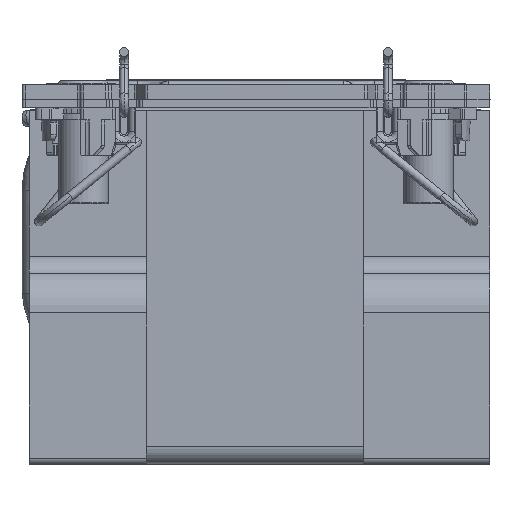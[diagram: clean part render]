
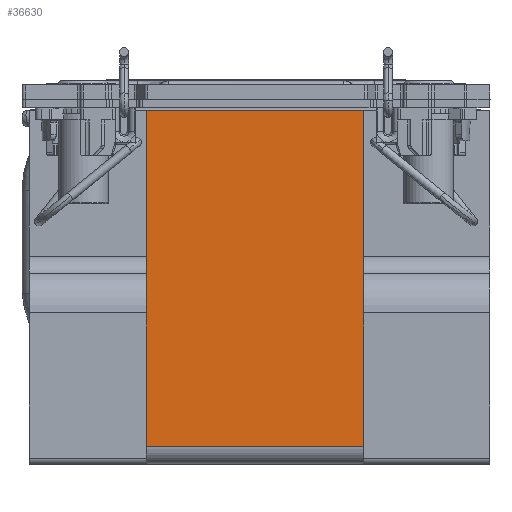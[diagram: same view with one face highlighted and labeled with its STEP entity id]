
A CAD part, front view. The second image highlights one B-rep face of the part: STEP entity #36630.
In plain terms, the highlighted planar face has unit normal (0, -1, 0) as drawn and (-1, 0, 0) by its records, which use the part's own axes.
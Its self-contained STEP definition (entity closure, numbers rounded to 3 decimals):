
#1712 = AXIS2_PLACEMENT_3D ( 'NONE', #46487, #35109, #3214 ) ;
#3214 = DIRECTION ( 'NONE',  ( 0., -1., 0. ) ) ;
#3679 = PLANE ( 'NONE',  #1712 ) ;
#4333 = EDGE_CURVE ( 'NONE', #19033, #57241, #36160, .T. ) ;
#4866 = ORIENTED_EDGE ( 'NONE', *, *, #4333, .F. ) ;
#7067 = VECTOR ( 'NONE', #55524, 1000. ) ;
#9713 = VECTOR ( 'NONE', #65361, 1000. ) ;
#11795 = CARTESIAN_POINT ( 'NONE',  ( -37.185, 88.436, 0. ) ) ;
#19033 = VERTEX_POINT ( 'NONE', #36672 ) ;
#27057 = VECTOR ( 'NONE', #52658, 1000. ) ;
#27094 = VERTEX_POINT ( 'NONE', #29731 ) ;
#27599 = FACE_OUTER_BOUND ( 'NONE', #54950, .T. ) ;
#29731 = CARTESIAN_POINT ( 'NONE',  ( -37.185, 32.436, 0. ) ) ;
#30106 = ORIENTED_EDGE ( 'NONE', *, *, #36746, .T. ) ;
#31560 = DIRECTION ( 'NONE',  ( 0., 0., 1. ) ) ;
#33395 = VECTOR ( 'NONE', #31560, 1000. ) ;
#33775 = EDGE_CURVE ( 'NONE', #19033, #51525, #46179, .T. ) ;
#35109 = DIRECTION ( 'NONE',  ( -1., 0., 0. ) ) ;
#36160 = LINE ( 'NONE', #52205, #27057 ) ;
#36630 = ADVANCED_FACE ( 'NONE', ( #27599 ), #3679, .T. ) ;
#36672 = CARTESIAN_POINT ( 'NONE',  ( -37.185, 88.436, -36.3 ) ) ;
#36746 = EDGE_CURVE ( 'NONE', #51525, #27094, #39154, .T. ) ;
#38193 = ORIENTED_EDGE ( 'NONE', *, *, #33775, .T. ) ;
#39154 = LINE ( 'NONE', #68553, #33395 ) ;
#40185 = ORIENTED_EDGE ( 'NONE', *, *, #65648, .F. ) ;
#46179 = LINE ( 'NONE', #66216, #7067 ) ;
#46487 = CARTESIAN_POINT ( 'NONE',  ( -37.185, 0., -168.228 ) ) ;
#49535 = CARTESIAN_POINT ( 'NONE',  ( -37.185, 0., 0. ) ) ;
#51525 = VERTEX_POINT ( 'NONE', #56073 ) ;
#52205 = CARTESIAN_POINT ( 'NONE',  ( -37.185, 88.436, -168.228 ) ) ;
#52658 = DIRECTION ( 'NONE',  ( 0., 0., 1. ) ) ;
#54950 = EDGE_LOOP ( 'NONE', ( #4866, #38193, #30106, #40185 ) ) ;
#55524 = DIRECTION ( 'NONE',  ( 0., -1., 0. ) ) ;
#56073 = CARTESIAN_POINT ( 'NONE',  ( -37.185, 32.436, -36.3 ) ) ;
#57241 = VERTEX_POINT ( 'NONE', #11795 ) ;
#58880 = LINE ( 'NONE', #49535, #9713 ) ;
#65361 = DIRECTION ( 'NONE',  ( 0., -1., 0. ) ) ;
#65648 = EDGE_CURVE ( 'NONE', #57241, #27094, #58880, .T. ) ;
#66216 = CARTESIAN_POINT ( 'NONE',  ( -37.185, 0., -36.3 ) ) ;
#68553 = CARTESIAN_POINT ( 'NONE',  ( -37.185, 32.436, -168.228 ) ) ;
